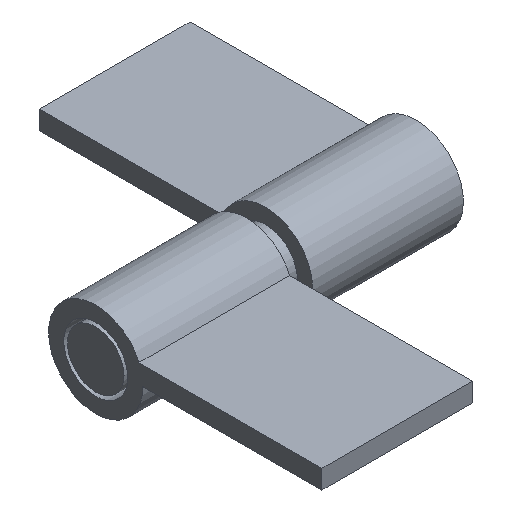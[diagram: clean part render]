
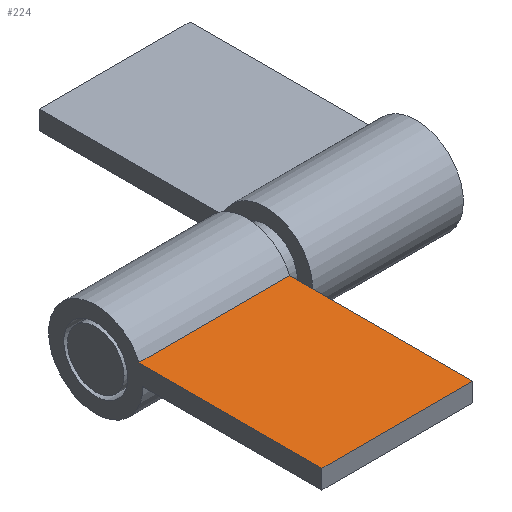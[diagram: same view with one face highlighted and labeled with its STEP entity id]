
A CAD part, isometric view. The second image highlights one B-rep face of the part: STEP entity #224.
In plain terms, the highlighted planar face has unit normal (0, 0, 1).
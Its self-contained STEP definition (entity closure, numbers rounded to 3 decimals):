
#43 = PLANE('',#44);
#44 = AXIS2_PLACEMENT_3D('',#45,#46,#47);
#45 = CARTESIAN_POINT('',(0.,0.,0.));
#46 = DIRECTION('',(1.,0.,0.));
#47 = DIRECTION('',(-0.,1.,0.));
#93 = PLANE('',#94);
#94 = AXIS2_PLACEMENT_3D('',#95,#96,#97);
#95 = CARTESIAN_POINT('',(8.,0.,0.));
#96 = DIRECTION('',(1.,0.,0.));
#97 = DIRECTION('',(-0.,1.,0.));
#112 = VERTEX_POINT('',#113);
#113 = CARTESIAN_POINT('',(8.,-2.291,1.));
#128 = CYLINDRICAL_SURFACE('',#129,2.5);
#129 = AXIS2_PLACEMENT_3D('',#130,#131,#132);
#130 = CARTESIAN_POINT('',(8.,0.,0.));
#131 = DIRECTION('',(-1.,-0.,-0.));
#132 = DIRECTION('',(0.,1.,0.));
#169 = VERTEX_POINT('',#170);
#170 = CARTESIAN_POINT('',(8.,-12.,1.));
#184 = PLANE('',#185);
#185 = AXIS2_PLACEMENT_3D('',#186,#187,#188);
#186 = CARTESIAN_POINT('',(8.,-12.,0.));
#187 = DIRECTION('',(0.,-1.,0.));
#188 = DIRECTION('',(-1.,0.,0.));
#196 = EDGE_CURVE('',#112,#169,#197,.T.);
#197 = SURFACE_CURVE('',#198,(#202,#209),.PCURVE_S1.);
#198 = LINE('',#199,#200);
#199 = CARTESIAN_POINT('',(8.,-2.,1.));
#200 = VECTOR('',#201,1.);
#201 = DIRECTION('',(0.,-1.,0.));
#202 = PCURVE('',#93,#203);
#203 = DEFINITIONAL_REPRESENTATION('',(#204),#208);
#204 = LINE('',#205,#206);
#205 = CARTESIAN_POINT('',(-2.,1.));
#206 = VECTOR('',#207,1.);
#207 = DIRECTION('',(-1.,0.));
#208 = ( GEOMETRIC_REPRESENTATION_CONTEXT(2) 
PARAMETRIC_REPRESENTATION_CONTEXT() REPRESENTATION_CONTEXT('2D SPACE',''
  ) );
#209 = PCURVE('',#210,#215);
#210 = PLANE('',#211);
#211 = AXIS2_PLACEMENT_3D('',#212,#213,#214);
#212 = CARTESIAN_POINT('',(4.,-7.,1.));
#213 = DIRECTION('',(-0.,-0.,-1.));
#214 = DIRECTION('',(-1.,0.,0.));
#215 = DEFINITIONAL_REPRESENTATION('',(#216),#220);
#216 = LINE('',#217,#218);
#217 = CARTESIAN_POINT('',(-4.,5.));
#218 = VECTOR('',#219,1.);
#219 = DIRECTION('',(0.,-1.));
#220 = ( GEOMETRIC_REPRESENTATION_CONTEXT(2) 
PARAMETRIC_REPRESENTATION_CONTEXT() REPRESENTATION_CONTEXT('2D SPACE',''
  ) );
#224 = ADVANCED_FACE('',(#225),#210,.F.);
#225 = FACE_BOUND('',#226,.F.);
#226 = EDGE_LOOP('',(#227,#252,#271,#272));
#227 = ORIENTED_EDGE('',*,*,#228,.T.);
#228 = EDGE_CURVE('',#229,#231,#233,.T.);
#229 = VERTEX_POINT('',#230);
#230 = CARTESIAN_POINT('',(0.,-12.,1.));
#231 = VERTEX_POINT('',#232);
#232 = CARTESIAN_POINT('',(0.,-2.291,1.));
#233 = SURFACE_CURVE('',#234,(#238,#245),.PCURVE_S1.);
#234 = LINE('',#235,#236);
#235 = CARTESIAN_POINT('',(0.,-12.,1.));
#236 = VECTOR('',#237,1.);
#237 = DIRECTION('',(0.,1.,0.));
#238 = PCURVE('',#210,#239);
#239 = DEFINITIONAL_REPRESENTATION('',(#240),#244);
#240 = LINE('',#241,#242);
#241 = CARTESIAN_POINT('',(4.,-5.));
#242 = VECTOR('',#243,1.);
#243 = DIRECTION('',(0.,1.));
#244 = ( GEOMETRIC_REPRESENTATION_CONTEXT(2) 
PARAMETRIC_REPRESENTATION_CONTEXT() REPRESENTATION_CONTEXT('2D SPACE',''
  ) );
#245 = PCURVE('',#43,#246);
#246 = DEFINITIONAL_REPRESENTATION('',(#247),#251);
#247 = LINE('',#248,#249);
#248 = CARTESIAN_POINT('',(-12.,1.));
#249 = VECTOR('',#250,1.);
#250 = DIRECTION('',(1.,0.));
#251 = ( GEOMETRIC_REPRESENTATION_CONTEXT(2) 
PARAMETRIC_REPRESENTATION_CONTEXT() REPRESENTATION_CONTEXT('2D SPACE',''
  ) );
#252 = ORIENTED_EDGE('',*,*,#253,.F.);
#253 = EDGE_CURVE('',#112,#231,#254,.T.);
#254 = SURFACE_CURVE('',#255,(#259,#265),.PCURVE_S1.);
#255 = LINE('',#256,#257);
#256 = CARTESIAN_POINT('',(8.,-2.291,1.));
#257 = VECTOR('',#258,1.);
#258 = DIRECTION('',(-1.,-0.,-0.));
#259 = PCURVE('',#210,#260);
#260 = DEFINITIONAL_REPRESENTATION('',(#261),#264);
#261 = B_SPLINE_CURVE_WITH_KNOTS('',1,(#262,#263),.UNSPECIFIED.,.F.,.F.,
  (2,2),(0.,8.),.PIECEWISE_BEZIER_KNOTS.);
#262 = CARTESIAN_POINT('',(-4.,4.709));
#263 = CARTESIAN_POINT('',(4.,4.709));
#264 = ( GEOMETRIC_REPRESENTATION_CONTEXT(2) 
PARAMETRIC_REPRESENTATION_CONTEXT() REPRESENTATION_CONTEXT('2D SPACE',''
  ) );
#265 = PCURVE('',#128,#266);
#266 = DEFINITIONAL_REPRESENTATION('',(#267),#270);
#267 = B_SPLINE_CURVE_WITH_KNOTS('',1,(#268,#269),.UNSPECIFIED.,.F.,.F.,
  (2,2),(-0.,8.),.PIECEWISE_BEZIER_KNOTS.);
#268 = CARTESIAN_POINT('',(-9.013,0.));
#269 = CARTESIAN_POINT('',(-9.013,8.));
#270 = ( GEOMETRIC_REPRESENTATION_CONTEXT(2) 
PARAMETRIC_REPRESENTATION_CONTEXT() REPRESENTATION_CONTEXT('2D SPACE',''
  ) );
#271 = ORIENTED_EDGE('',*,*,#196,.T.);
#272 = ORIENTED_EDGE('',*,*,#273,.T.);
#273 = EDGE_CURVE('',#169,#229,#274,.T.);
#274 = SURFACE_CURVE('',#275,(#279,#286),.PCURVE_S1.);
#275 = LINE('',#276,#277);
#276 = CARTESIAN_POINT('',(8.,-12.,1.));
#277 = VECTOR('',#278,1.);
#278 = DIRECTION('',(-1.,0.,0.));
#279 = PCURVE('',#210,#280);
#280 = DEFINITIONAL_REPRESENTATION('',(#281),#285);
#281 = LINE('',#282,#283);
#282 = CARTESIAN_POINT('',(-4.,-5.));
#283 = VECTOR('',#284,1.);
#284 = DIRECTION('',(1.,0.));
#285 = ( GEOMETRIC_REPRESENTATION_CONTEXT(2) 
PARAMETRIC_REPRESENTATION_CONTEXT() REPRESENTATION_CONTEXT('2D SPACE',''
  ) );
#286 = PCURVE('',#184,#287);
#287 = DEFINITIONAL_REPRESENTATION('',(#288),#292);
#288 = LINE('',#289,#290);
#289 = CARTESIAN_POINT('',(0.,-1.));
#290 = VECTOR('',#291,1.);
#291 = DIRECTION('',(1.,0.));
#292 = ( GEOMETRIC_REPRESENTATION_CONTEXT(2) 
PARAMETRIC_REPRESENTATION_CONTEXT() REPRESENTATION_CONTEXT('2D SPACE',''
  ) );
